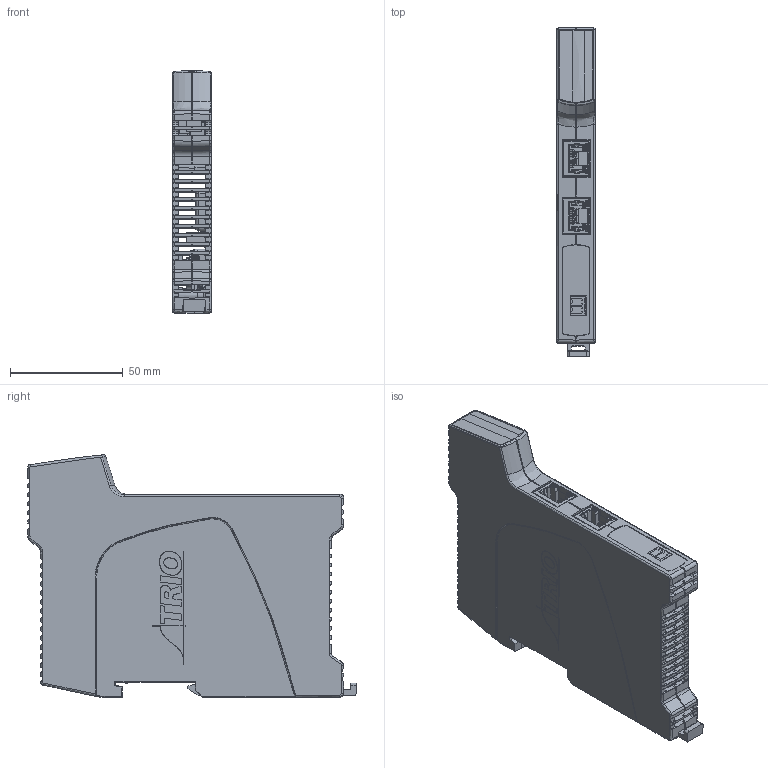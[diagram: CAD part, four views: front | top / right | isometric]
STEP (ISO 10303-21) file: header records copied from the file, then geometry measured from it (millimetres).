
FILE_DESCRIPTION(/* description */ (''),/* implementation_level */ '2;1');
FILE_NAME(/* name */ 'FLEXSL~1',/* time_stamp */ '2017-12-20T09:57:44+00:00',/* author */ (''),/* organization */ (''),/* preprocessor_version */ 'ST-DEVELOPER v15',/* originating_system */ '',/* authorisation */ '');
FILE_SCHEMA (('AUTOMOTIVE_DESIGN'));
Products named in the file (1): Document
Bounding box: 17.19 x 145.69 x 107.66 mm (x, y, z)
Volume: 9511.5 mm3; surface area: 86866.1 mm2
Topology: 7 solids, 14 shells, 6566 faces, 19044 edges, 12084 vertices
Faces by surface type: plane 4688, bspline 1878
Entity records: 250479 total; most frequent: CARTESIAN_POINT 131066, ORIENTED_EDGE 37123, EDGE_CURVE 19026, B_SPLINE_CURVE_WITH_KNOTS 16246, VERTEX_POINT 12088, EDGE_LOOP 6957, ADVANCED_FACE 6566, FACE_OUTER_BOUND 6566
